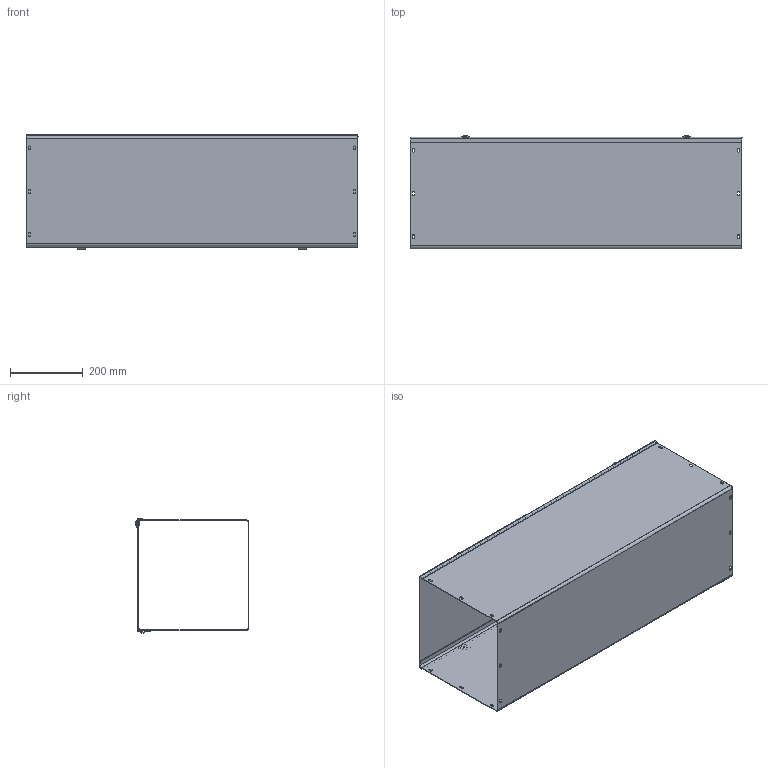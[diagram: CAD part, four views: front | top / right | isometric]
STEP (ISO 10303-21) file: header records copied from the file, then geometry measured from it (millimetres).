
FILE_DESCRIPTION((''),'1');
FILE_NAME('27','2001-04-18T',('jlue'),(''),'PRO/ENGINEER BY PARAMETRIC TECHNOLOGY CORPORATION, 9846','PRO/ENGINEER BY PARAMETRIC TECHNOLOGY CORPORATION, 9846','');
FILE_SCHEMA(('CONFIG_CONTROL_DESIGN'));
Length unit declared in the file: inch
Products named in the file (1): 27
Bounding box: 914.4 x 313.16 x 314.8 mm (x, y, z)
Surface area: 2286869.3 mm2 (no closed solid volume)
Topology: 0 solids, 0 shells, 223 faces, 1229 edges, 1234 vertices
Faces by surface type: plane 129, cylinder 78, cone 8, bspline 8
Entity records: 6365 total; most frequent: COMPOSITE_CURVE_SEGMENT 1224, DIRECTION 1223, CARTESIAN_POINT 1106, TRIMMED_CURVE 611, VECTOR 429, LINE 429, AXIS2_PLACEMENT_3D 397, CURVE_BOUNDED_SURFACE 223
